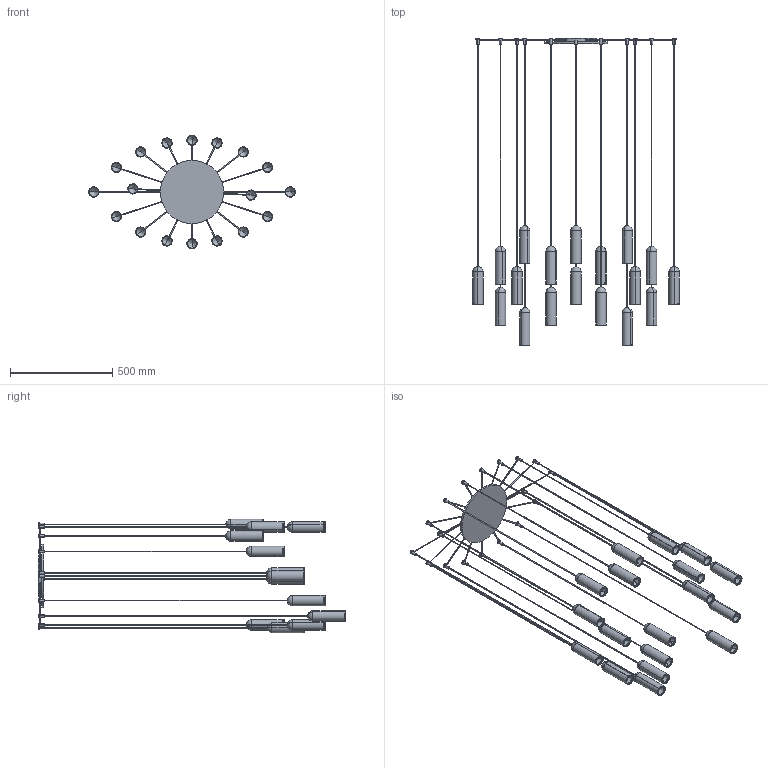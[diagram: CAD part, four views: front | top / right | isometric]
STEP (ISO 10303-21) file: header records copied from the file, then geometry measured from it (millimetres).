
FILE_DESCRIPTION (( 'STEP AP203' ), '1' );
FILE_NAME ('NANA2-00-NANUM 18 A ROSONE CENTRALE.STEP', '2024-07-31T07:26:21', ( '' ), ( '' ), 'SwSTEP 2.0', 'SolidWorks 2022', '' );
FILE_SCHEMA (( 'CONFIG_CONTROL_DESIGN' ));
Length unit declared in the file: millimetre
Products named in the file (7): NANA2-00-NANUM 18 A ROSONE CENTRALE; NANUM_Rosone diam.310_18A<A macchina>; NANUM_LAMPADA SINGOLA_H=1800; NANUM_LAMPADA SINGOLA_H=1600; NANUM_LAMPADA SINGOLA_H=1500; NANUM_LAMPADA SINGOLA_H=1900; NANUM_LAMPADA SINGOLA_H=1700
Assembly tree (19 placements, depth 2):
  NANA2-00-NANUM 18 A ROSONE CENTRALE
    NANUM_Rosone diam.310_18A<A macchina>
    NANUM_LAMPADA SINGOLA_H=1700  x5
    NANUM_LAMPADA SINGOLA_H=1800  x4
    NANUM_LAMPADA SINGOLA_H=1900  x3
    NANUM_LAMPADA SINGOLA_H=1600  x4
    NANUM_LAMPADA SINGOLA_H=1500  x2
Bounding box: 1008.27 x 1500 x 554 mm (x, y, z)
Volume: 2860523.7 mm3; surface area: 1595095.4 mm2
Topology: 55 solids, 55 shells, 684 faces, 1506 edges, 861 vertices
Faces by surface type: cylinder 373, plane 131, cone 72, sphere 72, torus 36
Entity records: 7997 total; most frequent: CARTESIAN_POINT 1640, DIRECTION 1219, ORIENTED_EDGE 988, AXIS2_PLACEMENT_3D 532, EDGE_CURVE 494, VERTEX_POINT 305, EDGE_LOOP 289, ADVANCED_FACE 268
